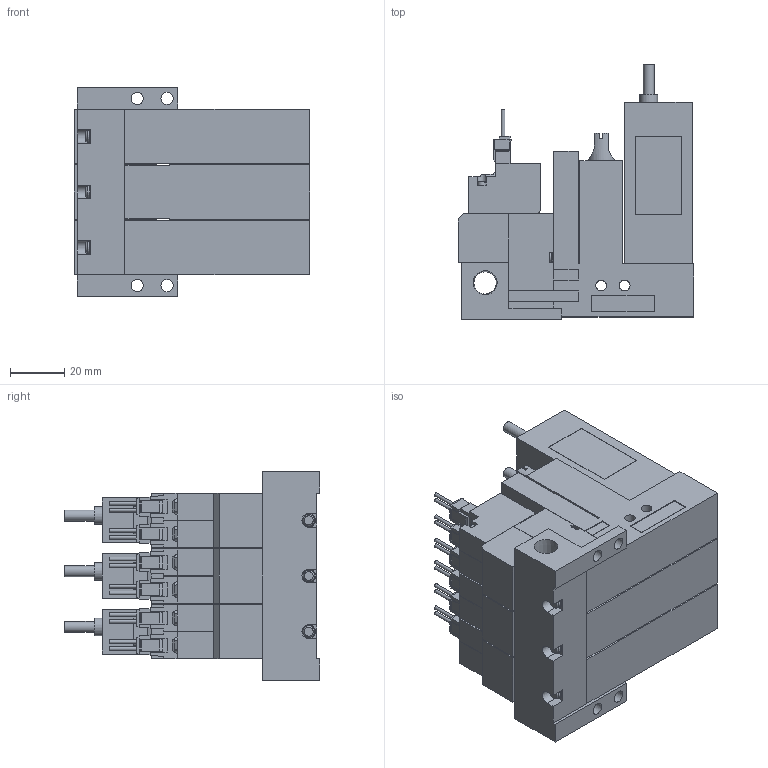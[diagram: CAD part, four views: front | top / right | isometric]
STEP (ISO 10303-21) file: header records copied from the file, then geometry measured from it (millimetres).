
FILE_DESCRIPTION(('STEP AP203'),'1');
FILE_NAME('VG_VGPL5BLR303.stp','2025-02-18T23:15:35',(' '),(' '),'Spatial InterOp 3D',' ',' ');
FILE_SCHEMA(('CONFIG_CONTROL_DESIGN'));
Length unit declared in the file: millimetre
Products named in the file (5): BMC22M※※※※VG_VGPL5BLR303; Solenoid valve B; Pressure sensor VGL; Unit L; Base MR30R
Assembly tree (10 placements, depth 2):
  BMC22M※※※※VG_VGPL5BLR303
    Solenoid valve B  x3
    Pressure sensor VGL  x3
    Unit L  x3
    Base MR30R
Bounding box: 86.6 x 94 x 77 mm (x, y, z)
Volume: 300758.9 mm3; surface area: 81741.6 mm2
Topology: 10 solids, 10 shells, 1086 faces, 2909 edges, 1927 vertices
Faces by surface type: plane 914, cylinder 140, cone 23, torus 9
Full cylindrical faces by diameter (mm): 1.4 x12, 2.5 x9, 3 x12, 3.5 x12, 3.6 x3, 4 x18, 4.134 x3, 4.5 x4, 5.2 x3, 6 x3, 6.5 x3, 6.6 x3, 8.279 x1
Entity records: 12601 total; most frequent: CARTESIAN_POINT 2343, DIRECTION 2004, ORIENTED_EDGE 1996, EDGE_CURVE 998, LINE 820, VECTOR 820, VERTEX_POINT 696, AXIS2_PLACEMENT_3D 592
